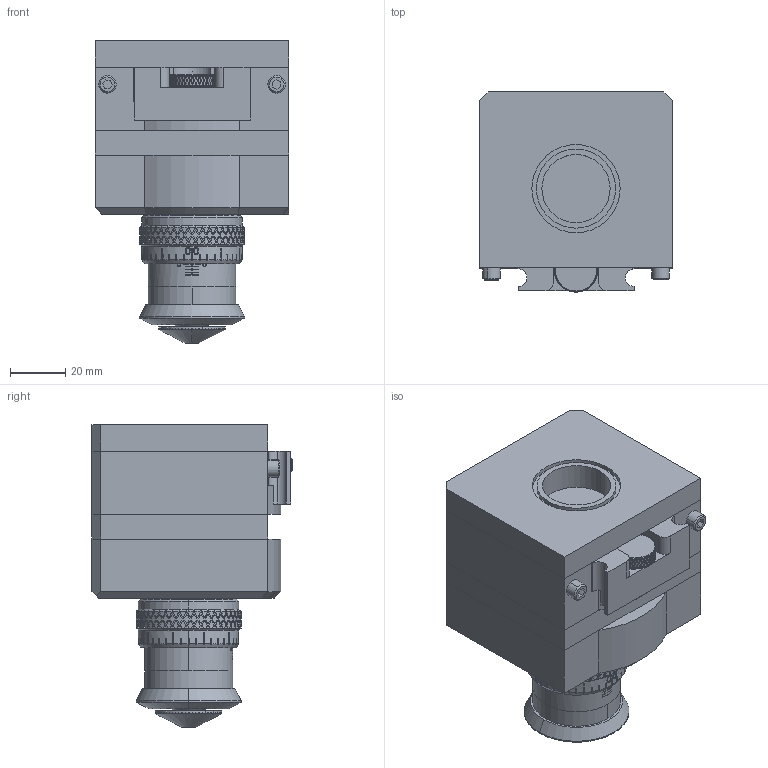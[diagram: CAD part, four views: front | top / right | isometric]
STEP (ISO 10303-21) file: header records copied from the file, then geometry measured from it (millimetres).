
FILE_DESCRIPTION (( 'STEP AP214' ), '1' );
FILE_NAME ('G6-25-28-89.STEP', '2016-11-02T19:32:46', ( '' ), ( '' ), 'SwSTEP 2.0', 'SolidWorks 2016', '' );
FILE_SCHEMA (( 'AUTOMOTIVE_DESIGN' ));
Length unit declared in the file: inch
Products named in the file (1): G6-25-28-89
Bounding box: 69.85 x 72.26 x 109.24 mm (x, y, z)
Volume: 304974.6 mm3; surface area: 51105.2 mm2
Topology: 3 solids, 3 shells, 4142 faces, 10864 edges, 6752 vertices
Faces by surface type: plane 3098, cylinder 854, cone 146, bspline 34, torus 10
Entity records: 127535 total; most frequent: CARTESIAN_POINT 36438, ORIENTED_EDGE 21728, DIRECTION 15760, EDGE_CURVE 10864, VERTEX_POINT 6752, LINE 5768, VECTOR 5768, AXIS2_PLACEMENT_3D 4996
